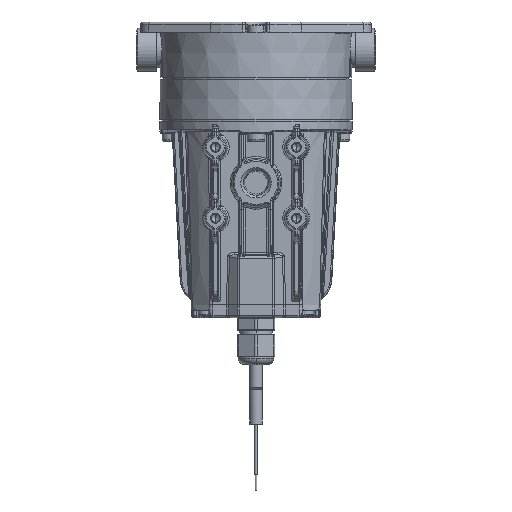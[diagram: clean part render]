
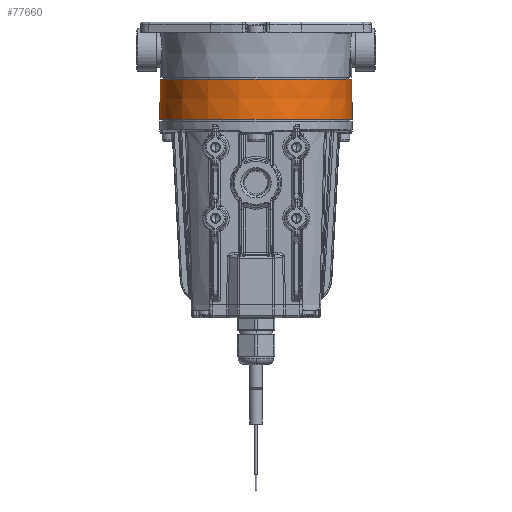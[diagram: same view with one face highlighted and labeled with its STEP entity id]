
A CAD part, front view. The second image highlights one B-rep face of the part: STEP entity #77660.
In plain terms, the highlighted conical face has half-angle 1 degrees and reference radius 37.85 mm.
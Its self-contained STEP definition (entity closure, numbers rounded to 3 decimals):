
#12005=CARTESIAN_POINT('',(0.,0.,20.3));
#12006=DIRECTION('',(0.,0.,1.));
#12007=DIRECTION('',(-1.,0.,0.));
#12008=AXIS2_PLACEMENT_3D('',#12005,#12006,#12007);
#12025=CARTESIAN_POINT('',(0.,0.,4.5));
#12026=DIRECTION('',(0.,0.,-1.));
#12027=DIRECTION('',(1.,0.,0.));
#12028=AXIS2_PLACEMENT_3D('',#12025,#12026,#12027);
#12030=DIRECTION('',(0.017,0.,1.));
#12031=VECTOR('',#12030,15.802);
#12032=CARTESIAN_POINT('',(-37.988,0.,4.5));
#12033=LINE('',#12032,#12031);
#12034=DIRECTION('',(0.017,0.,-1.));
#12035=VECTOR('',#12034,15.802);
#12036=CARTESIAN_POINT('',(37.712,0.,20.3));
#12037=LINE('',#12036,#12035);
#59126=CARTESIAN_POINT('',(37.712,0.,20.3));
#59127=CARTESIAN_POINT('',(-37.712,0.,20.3));
#59128=VERTEX_POINT('',#59126);
#59129=VERTEX_POINT('',#59127);
#59154=CARTESIAN_POINT('',(-37.988,0.,4.5));
#59155=CARTESIAN_POINT('',(37.988,0.,4.5));
#59156=VERTEX_POINT('',#59154);
#59157=VERTEX_POINT('',#59155);
#77649=CARTESIAN_POINT('',(0.,0.,12.4));
#77650=DIRECTION('',(0.,0.,-1.));
#77651=DIRECTION('',(-1.,0.,0.));
#77652=AXIS2_PLACEMENT_3D('',#77649,#77650,#77651);
#77653=CONICAL_SURFACE('',#77652,37.85,1.);
#77654=ORIENTED_EDGE('',*,*,#77631,.T.);
#77655=ORIENTED_EDGE('',*,*,#77613,.T.);
#77656=ORIENTED_EDGE('',*,*,#77587,.T.);
#77657=ORIENTED_EDGE('',*,*,#77610,.T.);
#77658=EDGE_LOOP('',(#77654,#77655,#77656,#77657));
#77659=FACE_OUTER_BOUND('',#77658,.F.);
#12009=CIRCLE('',#12008,37.712);
#12029=CIRCLE('',#12028,37.988);
#77587=EDGE_CURVE('',#59129,#59128,#12009,.T.);
#77610=EDGE_CURVE('',#59128,#59157,#12037,.T.);
#77613=EDGE_CURVE('',#59156,#59129,#12033,.T.);
#77631=EDGE_CURVE('',#59157,#59156,#12029,.T.);
#77660=ADVANCED_FACE('',(#77659),#77653,.T.);
